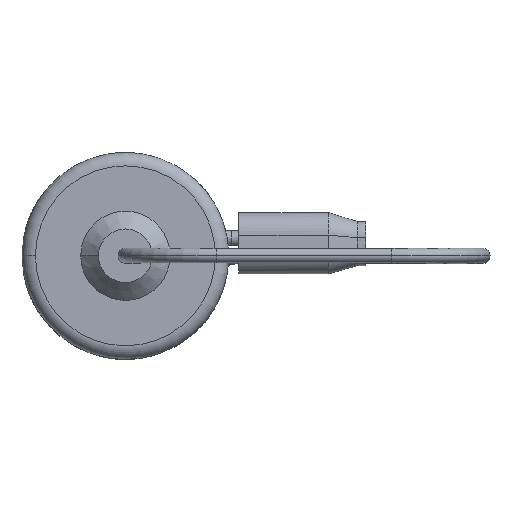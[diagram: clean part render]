
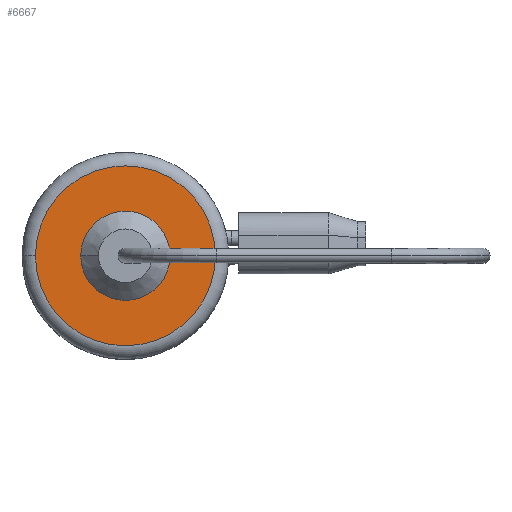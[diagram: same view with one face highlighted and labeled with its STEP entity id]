
A CAD part, top view. The second image highlights one B-rep face of the part: STEP entity #6667.
In plain terms, the highlighted planar face has unit normal (0, 0, 1).
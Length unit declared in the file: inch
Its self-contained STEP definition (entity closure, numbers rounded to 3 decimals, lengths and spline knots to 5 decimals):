
#516 = ORIENTED_EDGE ( 'NONE', *, *, #1422, .F. ) ;
#544 = DIRECTION ( 'NONE',  ( 0., 0., 1. ) ) ;
#630 = AXIS2_PLACEMENT_3D ( 'NONE', #673, #544, #4850 ) ;
#673 = CARTESIAN_POINT ( 'NONE',  ( 0., 0., 1.08268 ) ) ;
#770 = CIRCLE ( 'NONE', #630, 0.39665 ) ;
#1210 = CARTESIAN_POINT ( 'NONE',  ( -0.39665, 0., 1.08268 ) ) ;
#1422 = EDGE_CURVE ( 'NONE', #1657, #2104, #9017, .T. ) ;
#1657 = VERTEX_POINT ( 'NONE', #8074 ) ;
#2005 = CARTESIAN_POINT ( 'NONE',  ( 0.39665, 0., 1.08268 ) ) ;
#2075 = CIRCLE ( 'NONE', #8515, 0.39665 ) ;
#2104 = VERTEX_POINT ( 'NONE', #2415 ) ;
#2286 = FACE_BOUND ( 'NONE', #3748, .T. ) ;
#2329 = DIRECTION ( 'NONE',  ( 1., 0., 0. ) ) ;
#2391 = AXIS2_PLACEMENT_3D ( 'NONE', #6515, #8616, #2329 ) ;
#2415 = CARTESIAN_POINT ( 'NONE',  ( -0.19685, 0., 1.08268 ) ) ;
#2496 = CARTESIAN_POINT ( 'NONE',  ( 0., 0., 1.08268 ) ) ;
#2927 = CARTESIAN_POINT ( 'NONE',  ( 0., 0., 1.08268 ) ) ;
#3748 = EDGE_LOOP ( 'NONE', ( #516, #6798 ) ) ;
#4012 = DIRECTION ( 'NONE',  ( 0., 0., 1. ) ) ;
#4022 = DIRECTION ( 'NONE',  ( 0., 0., 1. ) ) ;
#4565 = DIRECTION ( 'NONE',  ( -1., 0., 0. ) ) ;
#4740 = EDGE_CURVE ( 'NONE', #5417, #6264, #2075, .T. ) ;
#4850 = DIRECTION ( 'NONE',  ( -1., 0., 0. ) ) ;
#5052 = ORIENTED_EDGE ( 'NONE', *, *, #6983, .T. ) ;
#5055 = AXIS2_PLACEMENT_3D ( 'NONE', #2927, #8322, #6610 ) ;
#5361 = EDGE_CURVE ( 'NONE', #2104, #1657, #7656, .T. ) ;
#5417 = VERTEX_POINT ( 'NONE', #1210 ) ;
#6192 = AXIS2_PLACEMENT_3D ( 'NONE', #6550, #4022, #6782 ) ;
#6264 = VERTEX_POINT ( 'NONE', #2005 ) ;
#6515 = CARTESIAN_POINT ( 'NONE',  ( 0., -0.19685, 1.08268 ) ) ;
#6550 = CARTESIAN_POINT ( 'NONE',  ( 0., 0., 1.08268 ) ) ;
#6603 = ORIENTED_EDGE ( 'NONE', *, *, #4740, .T. ) ;
#6610 = DIRECTION ( 'NONE',  ( -1., 0., 0. ) ) ;
#6667 = ADVANCED_FACE ( 'NONE', ( #2286, #7796 ), #7886, .F. ) ;
#6782 = DIRECTION ( 'NONE',  ( -1., 0., 0. ) ) ;
#6798 = ORIENTED_EDGE ( 'NONE', *, *, #5361, .F. ) ;
#6983 = EDGE_CURVE ( 'NONE', #6264, #5417, #770, .T. ) ;
#7656 = CIRCLE ( 'NONE', #6192, 0.19685 ) ;
#7796 = FACE_OUTER_BOUND ( 'NONE', #8521, .T. ) ;
#7886 = PLANE ( 'NONE',  #2391 ) ;
#8074 = CARTESIAN_POINT ( 'NONE',  ( 0.19685, 0., 1.08268 ) ) ;
#8322 = DIRECTION ( 'NONE',  ( 0., 0., 1. ) ) ;
#8515 = AXIS2_PLACEMENT_3D ( 'NONE', #2496, #4012, #4565 ) ;
#8521 = EDGE_LOOP ( 'NONE', ( #6603, #5052 ) ) ;
#8616 = DIRECTION ( 'NONE',  ( 0., 0., -1. ) ) ;
#9017 = CIRCLE ( 'NONE', #5055, 0.19685 ) ;
